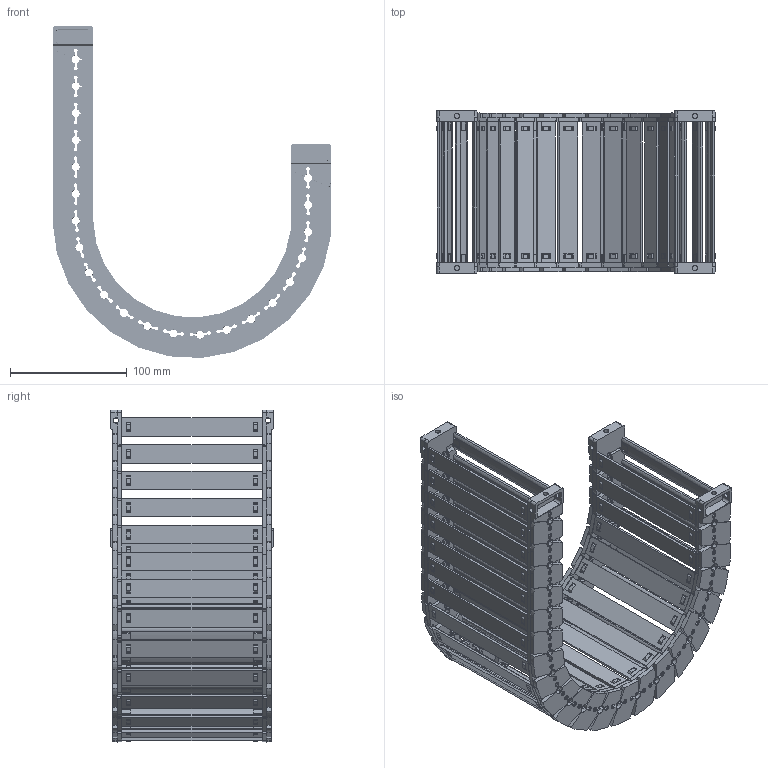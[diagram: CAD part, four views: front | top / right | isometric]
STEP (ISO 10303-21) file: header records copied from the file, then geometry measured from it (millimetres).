
FILE_DESCRIPTION((''),'2;1');
FILE_NAME('JY-28X120-R100_ASM','2026-03-25T18:38:05',('admin'),(''),'CREO PARAMETRIC BY PTC INC, 2021023','CREO PARAMETRIC BY PTC INC, 2021023','');
FILE_SCHEMA(('CONFIG_CONTROL_DESIGN'));
Length unit declared in the file: millimetre
Products named in the file (11): 28XL-L; 25-35XL-YP; 28XL-R; ASM0001_ASM; 28-LTT-A-L; 28-LTT-A-R; 28XL-LTT-A_ASM; 28-LTT-B-L; 28-LTT-B-R; 28XL-LTT-B_ASM; JY-28X120-R100_ASM
Assembly tree (35 placements, depth 3):
  JY-28X120-R100_ASM
    ASM0001_ASM  x21
      28XL-L
      25-35XL-YP
      28XL-R
    28XL-LTT-A_ASM
      28-LTT-A-L
      25-35XL-YP  x2
      28-LTT-A-R
    28XL-LTT-B_ASM
      28-LTT-B-L
      25-35XL-YP  x2
      28-LTT-B-R
Bounding box: 238.21 x 139 x 283.78 mm (x, y, z)
Volume: 517226.9 mm3; surface area: 371279.7 mm2
Topology: 92 solids, 92 shells, 7454 faces, 22156 edges, 14794 vertices
Faces by surface type: plane 4887, cone 1339, cylinder 1072, bspline 156
Entity records: 29119 total; most frequent: CARTESIAN_POINT 9493, ORIENTED_EDGE 4352, DIRECTION 3661, EDGE_CURVE 2176, VERTEX_POINT 1454, VECTOR 1365, LINE 1365, AXIS2_PLACEMENT_3D 1148
